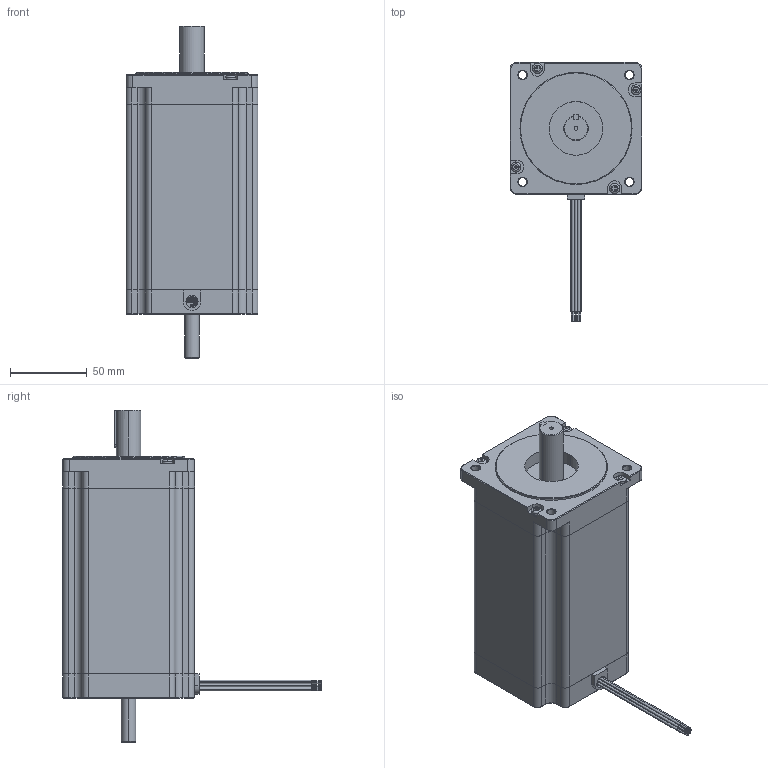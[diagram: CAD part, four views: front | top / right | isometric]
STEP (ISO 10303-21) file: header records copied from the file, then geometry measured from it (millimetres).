
FILE_DESCRIPTION (( 'STEP AP214' ), '1' );
FILE_NAME ('34Y308D-LW8.STEP', '2010-06-09T18:42:00', ( 'Tim Raines' ), ( 'Anaheim Automation' ), 'SwSTEP 2.0', 'SolidWorks 2010', '' );
FILE_SCHEMA (( 'AUTOMOTIVE_DESIGN' ));
Length unit declared in the file: inch
Products named in the file (1): 34Y308D-LW8
Bounding box: 85.85 x 168.4 x 216.15 mm (x, y, z)
Volume: 1056890.1 mm3; surface area: 74649.8 mm2
Topology: 1 solids, 1 shells, 378 faces, 949 edges, 598 vertices
Faces by surface type: plane 178, cylinder 129, cone 63, torus 8
Entity records: 16151 total; most frequent: CARTESIAN_POINT 2207, DIRECTION 1965, ORIENTED_EDGE 1874, EDGE_CURVE 937, AXIS2_PLACEMENT_3D 710, VERTEX_POINT 598, LINE 545, VECTOR 545
